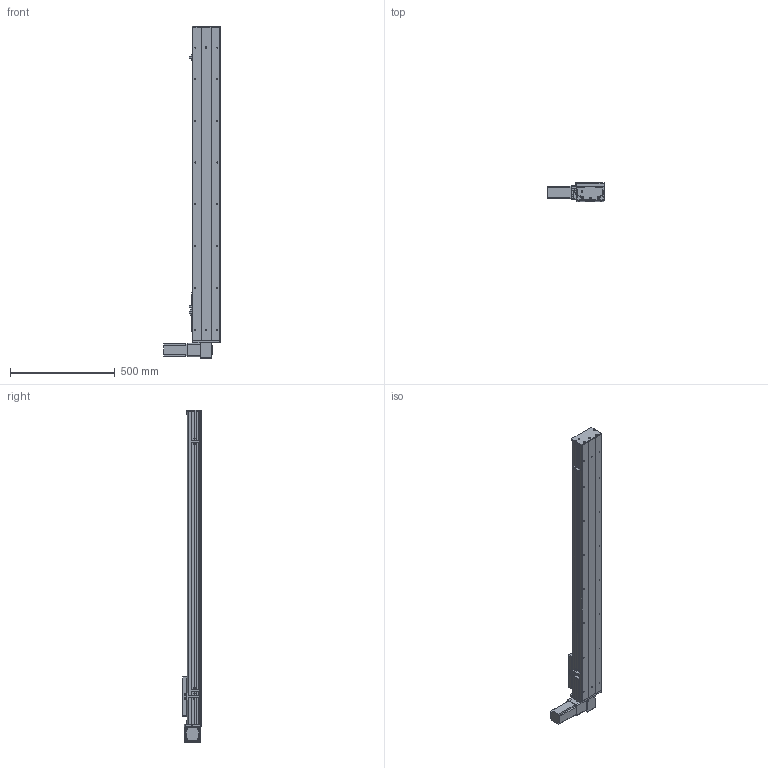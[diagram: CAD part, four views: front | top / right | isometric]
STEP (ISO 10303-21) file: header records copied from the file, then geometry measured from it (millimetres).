
FILE_DESCRIPTION (( 'STEP AP203' ), '1' );
FILE_NAME ('Y135CB-D90-S1200-BD-P400W.STEP', '2020-02-19T03:35:33', ( '微软用户' ), ( '微软中国' ), 'SwSTEP 2.0', 'SolidWorks 2017', '' );
FILE_SCHEMA (( 'CONFIG_CONTROL_DESIGN' ));
Length unit declared in the file: millimetre
Products named in the file (16): 35CB---喘謫眊楊擘啣; 5C--俋欶; 0B-埴倛裔啣; C-雄赽釱--; 0B-源倛裔啣; Y10B--々湍喘謫眊--666; san松下电机400不带刹车----; 0B-薊粣ん眊; Y135CB-D90-S1200-BD-P400W; 5CB --掛极耜裔啣-; C-詩湍揤踡え-陔; 135CB--詩湍-CE; Y135CB-耜裔; Y100-135俋离換覜ん--; 135CB---遴掛极.-; Y135C-陔俋离換覜結え-
Assembly tree (19 placements, depth 2):
  Y135CB-D90-S1200-BD-P400W
    Y135CB-耜裔
    135CB---遴掛极.-
    35CB---喘謫眊楊擘啣
    0B-埴倛裔啣
    0B-源倛裔啣
    san松下电机400不带刹车----
    5CB --掛极耜裔啣-  x2
    C-詩湍揤踡え-陔  x2
    135CB--詩湍-CE
    Y100-135俋离換覜ん--  x3
    Y135C-陔俋离換覜結え-
    5C--俋欶
    C-雄赽釱--
    Y10B--々湍喘謫眊--666
    0B-薊粣ん眊
Bounding box: 272 x 91 x 1588 mm (x, y, z)
Volume: 4906174.6 mm3; surface area: 1881001.9 mm2
Topology: 19 solids, 19 shells, 859 faces, 2284 edges, 1512 vertices
Faces by surface type: cylinder 428, plane 415, cone 16
Entity records: 26208 total; most frequent: DIRECTION 4368, CARTESIAN_POINT 4291, ORIENTED_EDGE 4044, EDGE_CURVE 2022, AXIS2_PLACEMENT_3D 1601, VERTEX_POINT 1340, LINE 1166, VECTOR 1166
